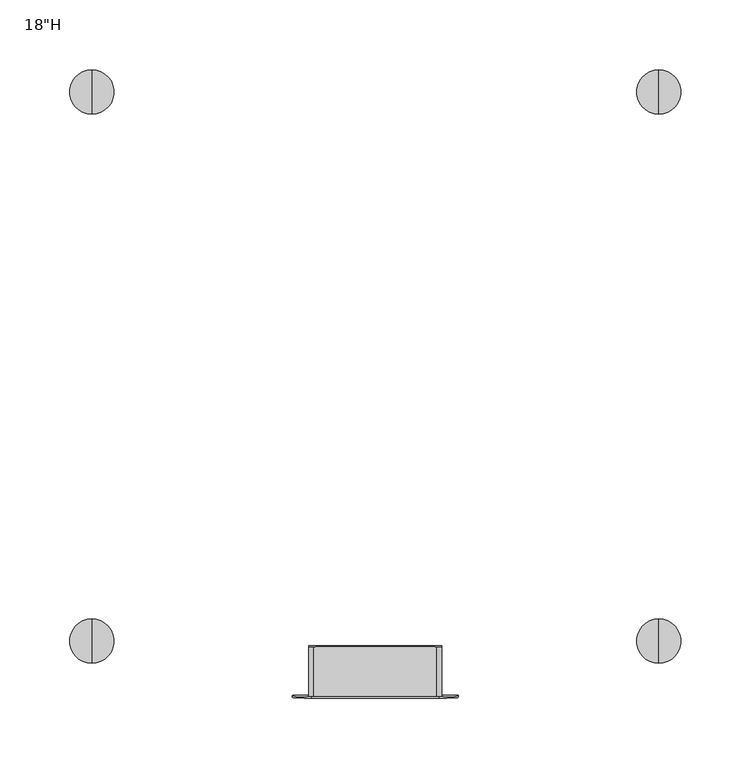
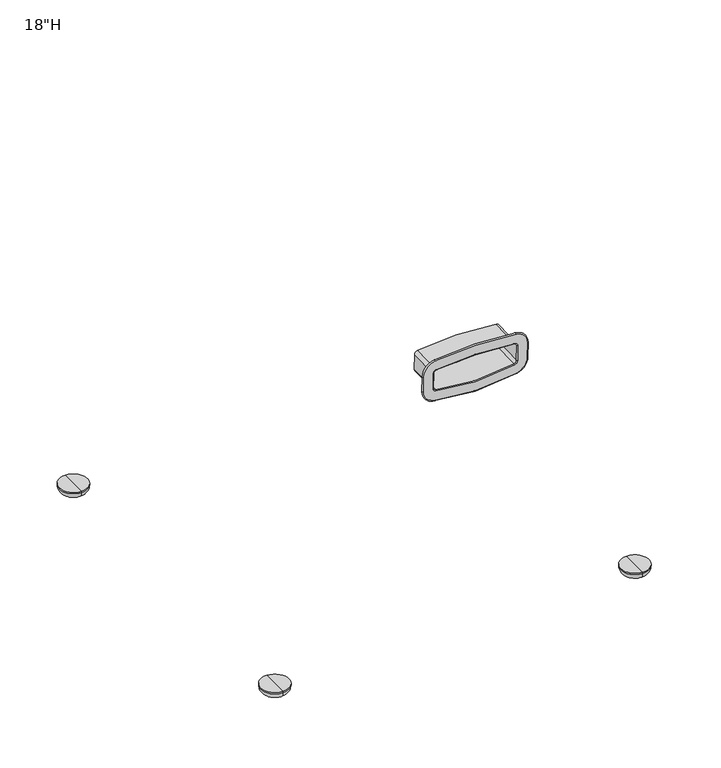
"""IFC4 building model written with IfcOpenShell, lengths in millimetres: furniture geometry."""

from ifc_helpers import new_model, si_unit, point, frame, origin, place, context, project, spatial, polyline, circle_curve, ellipse_curve, trimmed, source, transform, mapped, element, save
from ifc_brep_helpers import plane_surface, cylinder_surface, revolved_surface, advanced_brep


def furniture_e6a5d693(model_context):
    return source(origin(), model_context, "Body", "AdvancedBrep", [
        advanced_brep(
        [(44.3659332, -201.1031328, 328.7892288), (46.9155939, -201.1835637, 331.9230095), (46.9155939, -201.6446412, 349.8876982), (44.1201012, -201.7261303, 353.0627082), (-44.1201012, -201.7261303, 353.0627082), (-46.9155939, -201.6446412, 349.8876982), (-46.9155939, -201.1835637, 331.9230095), (-44.3659332, -201.1031328, 328.7892288), (47.7093439, -200.390075, 331.943375), (44.5276348, -200.2897057, 328.0327455), (-44.5276348, -200.2897057, 328.0327455), (-47.7093439, -200.390075, 331.943375), (-47.7093439, -200.8511526, 349.9080637), (-44.2208622, -200.9528424, 353.870143), (44.2208622, -200.9528424, 353.870143), (47.7093439, -200.8511526, 349.9080637), (47.7093439, -235.9314742, 331.0311777), (44.5276348, -235.8311049, 327.1205482), (58.8197535, -236.8878332, 331.006632), (46.7910317, -236.5083785, 316.2221648), (46.9492903, -235.5325056, 315.4864025), (59.5966028, -235.9314742, 331.0311777), (46.9155939, -236.0943445, 331.0269975), (44.3659332, -236.0139136, 327.8932168), (44.5276348, -236.7874639, 327.0960025), (47.7093439, -236.8878332, 331.006632), (47.7093439, -236.3925517, 348.9958664), (59.5966028, -236.3925517, 348.9958664), (58.8197535, -237.3489107, 348.9713207), (47.7093439, -237.3489107, 348.9713207), (46.9155939, -236.555422, 348.9916862), (44.2208622, -236.4942415, 352.9579458), (45.7298677, -236.7967693, 364.745155), (45.631252, -237.7333577, 363.9502984), (44.2208622, -237.4506005, 352.9334001), (44.1201012, -236.6369111, 352.1666962), (-44.2208622, -236.4942415, 352.9579458), (-45.7298677, -236.7967693, 364.745155), (-45.631252, -237.7333577, 363.9502984), (-44.2208622, -237.4506005, 352.9334001), (-44.1201012, -236.6369111, 352.1666962), (-47.7093439, -236.3925517, 348.9958664), (-59.5966028, -236.3925517, 348.9958664), (-58.8197535, -237.3489107, 348.9713207), (-47.7093439, -237.3489107, 348.9713207), (-46.9155939, -236.555422, 348.9916862), (-47.7093439, -235.9314742, 331.0311777), (-59.5966028, -235.9314742, 331.0311777), (-58.8197535, -236.8878332, 331.006632), (-47.7093439, -236.8878332, 331.006632), (-46.9155939, -236.0943445, 331.0269975), (-44.5276348, -235.8311049, 327.1205482), (-46.9492903, -235.5325056, 315.4864025), (-46.7910317, -236.5083785, 316.2221648), (-44.5276348, -236.7874639, 327.0960025), (-44.3659332, -236.0139136, 327.8932168)],
        [
            (0, 1, circle_curve(frame((43.7136345, -201.1835637, 331.9230095), z_axis=(0.0, -0.999670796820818, -0.025657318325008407), x_axis=(0.20371858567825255, 0.025119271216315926, -0.9787071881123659)), 3.2019594)),
            (1, 2),
            (2, 3, circle_curve(frame((43.7136345, -201.6446412, 349.8876982), z_axis=(0.0, -0.999670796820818, -0.025657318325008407), x_axis=(1.0, 0.0, 0.0)), 3.2019594)),
            (3, 4, circle_curve(frame((0.0, -192.8808634, 8.4298471), z_axis=(0.0, -0.999670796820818, -0.025657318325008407), x_axis=(0.1269430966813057, -0.0254497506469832, 0.9915834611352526)), 347.5580973)),
            (4, 5, circle_curve(frame((-43.7136345, -201.6446412, 349.8876982), z_axis=(0.0, -0.999670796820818, -0.025657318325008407), x_axis=(-0.1269430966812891, -0.025449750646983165, 0.9915834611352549)), 3.2019594)),
            (5, 6),
            (6, 7, circle_curve(frame((-43.7136345, -201.1835637, 331.9230095), z_axis=(0.0, -0.999670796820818, -0.025657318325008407), x_axis=(-1.0, 0.0, 0.0)), 3.2019594)),
            (7, 0, circle_curve(frame((0.0, -206.57362, 541.9325586), z_axis=(0.0, -0.999670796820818, -0.025657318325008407), x_axis=(-0.20371858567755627, 0.025119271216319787, -0.9787071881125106)), 217.7804887)),
            (8, 9, circle_curve(frame((43.7136345, -200.390075, 331.943375), z_axis=(0.0, 0.999670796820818, 0.025657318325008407), x_axis=(0.20371858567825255, 0.025119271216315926, -0.9787071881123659)), 3.9957094)),
            (9, 10, circle_curve(frame((0.0, -205.7801313, 541.9529241), z_axis=(0.0, 0.999670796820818, 0.025657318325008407), x_axis=(-0.20371858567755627, 0.025119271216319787, -0.9787071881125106)), 218.5742387)),
            (10, 11, circle_curve(frame((-43.7136345, -200.390075, 331.943375), z_axis=(0.0, 0.999670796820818, 0.025657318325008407), x_axis=(-1.0, 0.0, 0.0)), 3.9957094)),
            (11, 12),
            (12, 13, circle_curve(frame((-43.7136345, -200.8511526, 349.9080637), z_axis=(0.0, 0.999670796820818, 0.025657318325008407), x_axis=(-0.1269430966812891, -0.025449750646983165, 0.9915834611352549)), 3.9957094)),
            (13, 14, circle_curve(frame((0.0, -192.0873747, 8.4502126), z_axis=(0.0, 0.999670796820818, 0.025657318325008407), x_axis=(0.1269430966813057, -0.0254497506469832, 0.9915834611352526)), 348.3518473)),
            (14, 15, circle_curve(frame((43.7136345, -200.8511526, 349.9080637), z_axis=(0.0, 0.999670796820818, 0.025657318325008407), x_axis=(1.0, 0.0, 0.0)), 3.9957094)),
            (15, 8),
            (16, 17, circle_curve(frame((43.7136345, -235.9314742, 331.0311777), z_axis=(0.0, 0.999670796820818, 0.025657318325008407), x_axis=(0.20371858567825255, 0.025119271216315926, -0.9787071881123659)), 3.9957094)),
            (17, 9),
            (8, 16),
            (18, 19, circle_curve(frame((43.7136345, -236.8878332, 331.006632), z_axis=(0.0, 0.999670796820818, 0.025657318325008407), x_axis=(0.20371858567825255, 0.025119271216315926, -0.9787071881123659)), 15.106119)),
            (19, 20, circle_curve(frame((46.7910317, -235.7148898, 316.2425303), z_axis=(0.9790294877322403, -0.005226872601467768, 0.20365152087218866), x_axis=(-0.20371858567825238, -0.025119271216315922, 0.9787071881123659)), 0.79375)),
            (20, 21, circle_curve(frame((43.7136345, -235.9314742, 331.0311777), z_axis=(0.0, -0.999670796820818, -0.025657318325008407), x_axis=(0.20371858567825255, 0.025119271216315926, -0.9787071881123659)), 15.8829683)),
            (21, 18, circle_curve(frame((58.8197535, -236.0943445, 331.0269975), z_axis=(0.0, 0.02565731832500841, -0.9996707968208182), x_axis=(-1.0000000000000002, 0.0, 0.0)), 0.79375)),
            (22, 23, circle_curve(frame((43.7136345, -236.0943445, 331.0269975), z_axis=(0.0, 0.999670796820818, 0.025657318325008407), x_axis=(0.20371858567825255, 0.025119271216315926, -0.9787071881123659)), 3.2019594)),
            (23, 24, circle_curve(frame((44.5276348, -235.9939752, 327.116368), z_axis=(0.9790294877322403, -0.005226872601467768, 0.20365152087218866), x_axis=(-0.20371858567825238, -0.025119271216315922, 0.9787071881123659)), 0.79375)),
            (24, 25, circle_curve(frame((43.7136345, -236.8878332, 331.006632), z_axis=(0.0, -0.999670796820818, -0.025657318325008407), x_axis=(0.20371858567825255, 0.025119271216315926, -0.9787071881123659)), 3.9957094)),
            (25, 22, circle_curve(frame((47.7093439, -236.0943445, 331.0269975), z_axis=(0.0, 0.02565731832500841, -0.9996707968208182), x_axis=(-1.0000000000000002, 0.0, 0.0)), 0.79375)),
            (22, 1),
            (0, 23),
            (15, 26),
            (26, 16),
            (21, 27),
            (27, 28, circle_curve(frame((58.8197535, -236.555422, 348.9916862), z_axis=(0.0, 0.02565731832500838, -0.999670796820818), x_axis=(-1.0, 0.0, 0.0)), 0.79375)),
            (28, 18),
            (25, 29),
            (29, 30, circle_curve(frame((47.7093439, -236.555422, 348.9916862), z_axis=(0.0, 0.02565731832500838, -0.999670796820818), x_axis=(-1.0, 0.0, 0.0)), 0.79375)),
            (30, 22),
            (30, 2),
            (14, 31),
            (31, 26, circle_curve(frame((43.7136345, -236.3925517, 348.9958664), z_axis=(0.0, 0.999670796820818, 0.025657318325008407), x_axis=(1.0, 0.0, 0.0)), 3.9957094)),
            (27, 32, circle_curve(frame((43.7136345, -236.3925517, 348.9958664), z_axis=(0.0, -0.999670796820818, -0.025657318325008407), x_axis=(1.0, 0.0, 0.0)), 15.8829683)),
            (32, 33, circle_curve(frame((45.631252, -236.939869, 363.9706639), z_axis=(0.9919100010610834, 0.0032570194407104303, -0.12690130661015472), x_axis=(-0.12694309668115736, 0.025449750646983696, -0.9915834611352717)), 0.79375)),
            (33, 28, circle_curve(frame((43.7136345, -237.3489107, 348.9713207), z_axis=(0.0, 0.999670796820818, 0.025657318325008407), x_axis=(1.0, 0.0, 0.0)), 15.106119)),
            (29, 34, circle_curve(frame((43.7136345, -237.3489107, 348.9713207), z_axis=(0.0, -0.999670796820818, -0.025657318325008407), x_axis=(1.0, 0.0, 0.0)), 3.9957094)),
            (34, 35, circle_curve(frame((44.2208622, -236.6571119, 352.9537656), z_axis=(0.99191000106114, 0.0032570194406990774, -0.12690130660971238), x_axis=(-0.12694309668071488, 0.025449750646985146, -0.9915834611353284)), 0.79375)),
            (35, 30, circle_curve(frame((43.7136345, -236.555422, 348.9916862), z_axis=(0.0, 0.999670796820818, 0.025657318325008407), x_axis=(1.0, 0.0, 0.0)), 3.2019594)),
            (35, 3),
            (13, 36),
            (36, 31, circle_curve(frame((0.0, -227.6287739, 7.5380153), z_axis=(0.0, 0.999670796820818, 0.025657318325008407), x_axis=(0.1269430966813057, -0.0254497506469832, 0.9915834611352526)), 348.3518473)),
            (32, 37, circle_curve(frame((0.0, -227.6287739, 7.5380153), z_axis=(0.0, -0.999670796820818, -0.025657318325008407), x_axis=(0.1269430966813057, -0.0254497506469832, 0.9915834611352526)), 360.2391062)),
            (37, 38, circle_curve(frame((-45.631252, -236.939869, 363.9706639), z_axis=(0.9919100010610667, -0.003257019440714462, 0.12690130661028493), x_axis=(0.12694309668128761, 0.025449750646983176, -0.991583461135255)), 0.79375)),
            (38, 33, circle_curve(frame((0.0, -228.5851329, 7.5134696), z_axis=(0.0, 0.999670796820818, 0.025657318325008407), x_axis=(0.1269430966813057, -0.0254497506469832, 0.9915834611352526)), 359.4622569)),
            (34, 39, circle_curve(frame((0.0, -228.5851329, 7.5134696), z_axis=(0.0, -0.999670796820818, -0.025657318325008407), x_axis=(0.1269430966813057, -0.0254497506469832, 0.9915834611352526)), 348.3518473)),
            (39, 40, circle_curve(frame((-44.2208622, -236.6571119, 352.9537656), z_axis=(0.9919100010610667, -0.003257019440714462, 0.12690130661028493), x_axis=(0.12694309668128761, 0.025449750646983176, -0.991583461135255)), 0.79375)),
            (40, 35, circle_curve(frame((0.0, -227.7916442, 7.5338351), z_axis=(0.0, 0.999670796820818, 0.025657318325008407), x_axis=(0.1269430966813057, -0.0254497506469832, 0.9915834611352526)), 347.5580973)),
            (40, 4),
            (12, 41),
            (41, 36, circle_curve(frame((-43.7136345, -236.3925517, 348.9958664), z_axis=(0.0, 0.999670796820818, 0.025657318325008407), x_axis=(-0.1269430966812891, -0.025449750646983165, 0.9915834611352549)), 3.9957094)),
            (37, 42, circle_curve(frame((-43.7136345, -236.3925517, 348.9958664), z_axis=(0.0, -0.999670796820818, -0.025657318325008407), x_axis=(-0.1269430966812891, -0.025449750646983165, 0.9915834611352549)), 15.8829683)),
            (42, 43, circle_curve(frame((-58.8197535, -236.555422, 348.9916862), z_axis=(0.0, -0.025657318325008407, 0.999670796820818), x_axis=(1.0000000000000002, 0.0, 0.0)), 0.79375)),
            (43, 38, circle_curve(frame((-43.7136345, -237.3489107, 348.9713207), z_axis=(0.0, 0.999670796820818, 0.025657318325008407), x_axis=(-0.1269430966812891, -0.025449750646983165, 0.9915834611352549)), 15.106119)),
            (39, 44, circle_curve(frame((-43.7136345, -237.3489107, 348.9713207), z_axis=(0.0, -0.999670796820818, -0.025657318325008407), x_axis=(-0.1269430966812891, -0.025449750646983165, 0.9915834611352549)), 3.9957094)),
            (44, 45, circle_curve(frame((-47.7093439, -236.555422, 348.9916862), z_axis=(0.0, -0.025657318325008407, 0.999670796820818), x_axis=(1.0000000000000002, 0.0, 0.0)), 0.79375)),
            (45, 40, circle_curve(frame((-43.7136345, -236.555422, 348.9916862), z_axis=(0.0, 0.999670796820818, 0.025657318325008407), x_axis=(-0.1269430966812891, -0.025449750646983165, 0.9915834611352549)), 3.2019594)),
            (45, 5),
            (11, 46),
            (46, 41),
            (42, 47),
            (47, 48, circle_curve(frame((-58.8197535, -236.0943445, 331.0269975), z_axis=(0.0, -0.025657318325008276, 0.999670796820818), x_axis=(1.0, 0.0, 0.0)), 0.79375)),
            (48, 43),
            (44, 49),
            (49, 50, circle_curve(frame((-47.7093439, -236.0943445, 331.0269975), z_axis=(0.0, -0.025657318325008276, 0.999670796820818), x_axis=(1.0, 0.0, 0.0)), 0.79375)),
            (50, 45),
            (50, 6),
            (10, 51),
            (51, 46, circle_curve(frame((-43.7136345, -235.9314742, 331.0311777), z_axis=(0.0, 0.999670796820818, 0.025657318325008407), x_axis=(-1.0, 0.0, 0.0)), 3.9957094)),
            (47, 52, circle_curve(frame((-43.7136345, -235.9314742, 331.0311777), z_axis=(0.0, -0.999670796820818, -0.025657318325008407), x_axis=(-1.0, 0.0, 0.0)), 15.8829683)),
            (52, 53, circle_curve(frame((-46.7910317, -235.7148898, 316.2425303), z_axis=(-0.979029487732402, -0.005226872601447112, 0.2036515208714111), x_axis=(0.20371858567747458, -0.025119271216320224, 0.9787071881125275)), 0.79375)),
            (53, 48, circle_curve(frame((-43.7136345, -236.8878332, 331.006632), z_axis=(0.0, 0.999670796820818, 0.025657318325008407), x_axis=(-1.0, 0.0, 0.0)), 15.106119)),
            (49, 54, circle_curve(frame((-43.7136345, -236.8878332, 331.006632), z_axis=(0.0, -0.999670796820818, -0.025657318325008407), x_axis=(-1.0, 0.0, 0.0)), 3.9957094)),
            (54, 55, circle_curve(frame((-44.5276348, -235.9939752, 327.116368), z_axis=(-0.979029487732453, -0.005226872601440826, 0.20365152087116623), x_axis=(0.2037185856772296, -0.025119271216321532, 0.9787071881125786)), 0.79375)),
            (55, 50, circle_curve(frame((-43.7136345, -236.0943445, 331.0269975), z_axis=(0.0, 0.999670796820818, 0.025657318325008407), x_axis=(-1.0, 0.0, 0.0)), 3.2019594)),
            (55, 7),
            (17, 51, circle_curve(frame((0.0, -241.3215305, 541.0407268), z_axis=(0.0, 0.999670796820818, 0.025657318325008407), x_axis=(-0.20371858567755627, 0.025119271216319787, -0.9787071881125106)), 218.5742387)),
            (20, 52, circle_curve(frame((0.0, -241.3215305, 541.0407268), z_axis=(0.0, 0.999670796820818, 0.025657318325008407), x_axis=(-0.20371858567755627, 0.025119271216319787, -0.9787071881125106)), 230.4614976)),
            (19, 53, circle_curve(frame((0.0, -242.2778895, 541.0161811), z_axis=(0.0, 0.999670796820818, 0.025657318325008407), x_axis=(-0.20371858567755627, 0.025119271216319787, -0.9787071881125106)), 229.6846483)),
            (24, 54, circle_curve(frame((0.0, -242.2778895, 541.0161811), z_axis=(0.0, 0.999670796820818, 0.025657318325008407), x_axis=(-0.20371858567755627, 0.025119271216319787, -0.9787071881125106)), 218.5742387)),
            (23, 55, circle_curve(frame((0.0, -241.4844008, 541.0365466), z_axis=(0.0, 0.999670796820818, 0.025657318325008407), x_axis=(-0.20371858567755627, 0.025119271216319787, -0.9787071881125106)), 217.7804887)),
        ],
        [
            plane_surface(frame((-40.5788218, -201.627905, 349.2356143), z_axis=(0.0, -0.999670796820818, -0.02565731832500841), x_axis=(0.20371858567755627, -0.025119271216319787, 0.9787071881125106))),
            plane_surface(frame((-40.5788218, -200.8344163, 349.2559798), z_axis=(0.0, 0.999670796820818, 0.02565731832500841), x_axis=(-0.20371858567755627, 0.025119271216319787, -0.9787071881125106))),
            cylinder_surface(frame((43.7136345, -235.9314742, 331.0311777), z_axis=(0.0, -0.999670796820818, -0.025657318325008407), x_axis=(0.20371858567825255, 0.025119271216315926, -0.9787071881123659)), 3.9957094),
            revolved_surface(trimmed(ellipse_curve(frame((46.7910317, -235.7148898, 316.2425303), z_axis=(-0.9790294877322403, 0.005226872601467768, -0.20365152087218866), x_axis=(-0.20371858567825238, -0.025119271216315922, 0.9787071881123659)), 0.79375, 0.79375), [point((46.9492903, -235.5325056, 315.4864025))], [point((46.7910317, -236.5083785, 316.2221648))], True, "CARTESIAN"), (43.7136345, -235.9314742, 331.0311777), (0.0, -0.999670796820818, -0.025657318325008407)),
            revolved_surface(trimmed(ellipse_curve(frame((44.5276348, -235.9939752, 327.116368), z_axis=(-0.9790294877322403, 0.005226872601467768, -0.20365152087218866), x_axis=(-0.20371858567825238, -0.025119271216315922, 0.9787071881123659)), 0.79375, 0.79375), [point((44.5276348, -236.7874639, 327.0960025))], [point((44.3659332, -236.0139136, 327.8932168))], True, "CARTESIAN"), (43.7136345, -235.9314742, 331.0311777), (0.0, -0.999670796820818, -0.025657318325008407)),
            revolved_surface(polyline([(44.36593314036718, -236.01391361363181, 327.89321682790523), (44.36593314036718, -201.10313280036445, 328.7892288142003)]), (43.7136345, -235.9314742, 331.0311777), (0.0, -0.999670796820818, -0.025657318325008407)),
            plane_surface(frame((47.7093439, -200.390075, 331.943375), z_axis=(1.0, 0.0, 0.0), x_axis=(0.0, -0.025657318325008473, 0.999670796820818))),
            cylinder_surface(frame((58.8197535, -236.0943445, 331.0269975), z_axis=(0.0, 0.02565731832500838, -0.999670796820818), x_axis=(-1.0, 0.0, 0.0)), 0.79375),
            cylinder_surface(frame((47.7093439, -236.0943445, 331.0269975), z_axis=(0.0, 0.02565731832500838, -0.999670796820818), x_axis=(-1.0, 0.0, 0.0)), 0.79375),
            plane_surface(frame((46.9155939, -236.0943445, 331.0269975), z_axis=(-1.0, 0.0, 0.0), x_axis=(0.0, -0.025657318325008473, 0.999670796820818))),
            cylinder_surface(frame((43.7136345, -236.3925517, 348.9958664), z_axis=(0.0, -0.999670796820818, -0.025657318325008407), x_axis=(1.0, 0.0, 0.0)), 3.9957094),
            revolved_surface(trimmed(ellipse_curve(frame((58.8197535, -236.555422, 348.9916862), z_axis=(0.0, 0.025657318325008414, -0.999670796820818), x_axis=(-1.0, 0.0, 0.0)), 0.79375, 0.79375), [point((59.5966028, -236.3925517, 348.9958664))], [point((58.8197535, -237.3489107, 348.9713207))], True, "CARTESIAN"), (43.7136345, -236.3925517, 348.9958664), (0.0, -0.999670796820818, -0.025657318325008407)),
            revolved_surface(trimmed(ellipse_curve(frame((47.7093439, -236.555422, 348.9916862), z_axis=(0.0, 0.025657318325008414, -0.999670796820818), x_axis=(-1.0, 0.0, 0.0)), 0.79375, 0.79375), [point((47.7093439, -237.3489107, 348.9713207))], [point((46.9155939, -236.555422, 348.9916862))], True, "CARTESIAN"), (43.7136345, -236.3925517, 348.9958664), (0.0, -0.999670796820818, -0.025657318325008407)),
            revolved_surface(polyline([(46.9155939, -236.55542203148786, 348.9916862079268), (46.9155939, -201.6446411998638, 349.88769819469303)]), (43.7136345, -236.3925517, 348.9958664), (0.0, -0.999670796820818, -0.025657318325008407)),
            cylinder_surface(frame((0.0, -227.6287739, 7.5380153), z_axis=(0.0, -0.999670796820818, -0.025657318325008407), x_axis=(0.1269430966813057, -0.0254497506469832, 0.9915834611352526)), 348.3518473),
            revolved_surface(trimmed(ellipse_curve(frame((45.631252, -236.939869, 363.9706639), z_axis=(0.9919100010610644, 0.0032570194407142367, -0.12690130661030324), x_axis=(-0.12694309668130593, 0.025449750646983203, -0.9915834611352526)), 0.79375, 0.79375), [point((45.7298677, -236.7967693, 364.745155))], [point((45.631252, -237.7333577, 363.9502984))], True, "CARTESIAN"), (0.0, -227.6287739, 7.5380153), (0.0, -0.999670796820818, -0.025657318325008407)),
            revolved_surface(trimmed(ellipse_curve(frame((44.2208622, -236.6571119, 352.9537656), z_axis=(0.9919100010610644, 0.0032570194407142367, -0.12690130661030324), x_axis=(-0.12694309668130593, 0.025449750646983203, -0.9915834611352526)), 0.79375, 0.79375), [point((44.2208622, -237.4506005, 352.9334001))], [point((44.1201012, -236.6369111, 352.1666962))], True, "CARTESIAN"), (0.0, -227.6287739, 7.5380153), (0.0, -0.999670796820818, -0.025657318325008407)),
            revolved_surface(polyline([(44.12010114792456, -236.63691111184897, 352.16669617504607), (44.12010114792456, -201.7261302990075, 353.0627081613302)]), (0.0, -227.6287739, 7.5380153), (0.0, -0.999670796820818, -0.025657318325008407)),
            cylinder_surface(frame((-43.7136345, -236.3925517, 348.9958664), z_axis=(0.0, -0.999670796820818, -0.025657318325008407), x_axis=(-0.1269430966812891, -0.025449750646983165, 0.9915834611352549)), 3.9957094),
            revolved_surface(trimmed(ellipse_curve(frame((-45.631252, -236.939869, 363.9706639), z_axis=(0.9919100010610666, -0.0032570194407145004, 0.12690130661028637), x_axis=(0.12694309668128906, 0.025449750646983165, -0.9915834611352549)), 0.79375, 0.79375), [point((-45.7298677, -236.7967693, 364.745155))], [point((-45.631252, -237.7333577, 363.9502984))], True, "CARTESIAN"), (-43.7136345, -236.3925517, 348.9958664), (0.0, -0.999670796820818, -0.025657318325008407)),
            revolved_surface(trimmed(ellipse_curve(frame((-44.2208622, -236.6571119, 352.9537656), z_axis=(0.9919100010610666, -0.0032570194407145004, 0.12690130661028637), x_axis=(0.12694309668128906, 0.025449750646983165, -0.9915834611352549)), 0.79375, 0.79375), [point((-44.2208622, -237.4506005, 352.9334001))], [point((-44.1201012, -236.6369111, 352.1666962))], True, "CARTESIAN"), (-43.7136345, -236.3925517, 348.9958664), (0.0, -0.999670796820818, -0.025657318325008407)),
            revolved_surface(polyline([(-44.12010114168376, -236.63691109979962, 352.1666961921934), (-44.12010114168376, -201.72613026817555, 353.0627081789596)]), (-43.7136345, -236.3925517, 348.9958664), (0.0, -0.999670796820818, -0.025657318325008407)),
            plane_surface(frame((-47.7093439, -200.8511526, 349.9080637), z_axis=(-1.0, 0.0, 0.0), x_axis=(0.0, 0.025657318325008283, -0.999670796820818))),
            cylinder_surface(frame((-58.8197535, -236.555422, 348.9916862), z_axis=(0.0, -0.025657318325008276, 0.999670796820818), x_axis=(1.0, 0.0, 0.0)), 0.79375),
            cylinder_surface(frame((-47.7093439, -236.555422, 348.9916862), z_axis=(0.0, -0.025657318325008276, 0.999670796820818), x_axis=(1.0, 0.0, 0.0)), 0.79375),
            plane_surface(frame((-46.9155939, -236.555422, 348.9916862), z_axis=(1.0, 0.0, 0.0), x_axis=(0.0, 0.025657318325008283, -0.999670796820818))),
            cylinder_surface(frame((-43.7136345, -235.9314742, 331.0311777), z_axis=(0.0, -0.999670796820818, -0.025657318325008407), x_axis=(-1.0, 0.0, 0.0)), 3.9957094),
            revolved_surface(trimmed(ellipse_curve(frame((-58.8197535, -236.0943445, 331.0269975), z_axis=(0.0, -0.0256573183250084, 0.999670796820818), x_axis=(1.0, 0.0, 0.0)), 0.79375, 0.79375), [point((-59.5966028, -235.9314742, 331.0311777))], [point((-58.8197535, -236.8878332, 331.006632))], True, "CARTESIAN"), (-43.7136345, -235.9314742, 331.0311777), (0.0, -0.999670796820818, -0.025657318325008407)),
            revolved_surface(trimmed(ellipse_curve(frame((-47.7093439, -236.0943445, 331.0269975), z_axis=(0.0, -0.0256573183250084, 0.999670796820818), x_axis=(1.0, 0.0, 0.0)), 0.79375, 0.79375), [point((-47.7093439, -236.8878332, 331.006632))], [point((-46.9155939, -236.0943445, 331.0269975))], True, "CARTESIAN"), (-43.7136345, -235.9314742, 331.0311777), (0.0, -0.999670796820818, -0.025657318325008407)),
            revolved_surface(polyline([(-46.9155939, -236.09434450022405, 331.0269975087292), (-46.9155939, -201.1835636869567, 331.9230094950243)]), (-43.7136345, -235.9314742, 331.0311777), (0.0, -0.999670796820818, -0.025657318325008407)),
            cylinder_surface(frame((0.0, -241.3215305, 541.0407268), z_axis=(0.0, -0.999670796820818, -0.025657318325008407), x_axis=(-0.20371858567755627, 0.025119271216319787, -0.9787071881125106)), 218.5742387),
            plane_surface(frame((0.0, -241.3215305, 541.0407268), z_axis=(0.0, 0.999670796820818, 0.02565731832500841), x_axis=(-0.20371858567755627, 0.025119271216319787, -0.9787071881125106))),
            revolved_surface(trimmed(ellipse_curve(frame((-46.7910317, -235.7148898, 316.2425303), z_axis=(-0.9790294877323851, -0.005226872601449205, 0.20365152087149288), x_axis=(0.20371858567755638, -0.025119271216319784, 0.9787071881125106)), 0.79375, 0.79375), [point((-46.9492903, -235.5325056, 315.4864025))], [point((-46.7910317, -236.5083785, 316.2221648))], True, "CARTESIAN"), (0.0, -241.3215305, 541.0407268), (0.0, -0.999670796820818, -0.025657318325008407)),
            plane_surface(frame((0.0, -242.2778895, 541.0161811), z_axis=(0.0, -0.999670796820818, -0.02565731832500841), x_axis=(-0.20371858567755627, 0.025119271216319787, -0.9787071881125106))),
            revolved_surface(trimmed(ellipse_curve(frame((-44.5276348, -235.9939752, 327.116368), z_axis=(-0.9790294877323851, -0.005226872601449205, 0.20365152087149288), x_axis=(0.20371858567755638, -0.025119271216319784, 0.9787071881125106)), 0.79375, 0.79375), [point((-44.5276348, -236.7874639, 327.0960025))], [point((-44.3659332, -236.0139136, 327.8932168))], True, "CARTESIAN"), (0.0, -241.3215305, 541.0407268), (0.0, -0.999670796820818, -0.025657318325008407)),
            revolved_surface(polyline([(-44.36593314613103, -236.0139136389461, 327.89321688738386), (-44.36593314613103, -201.10313280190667, 328.78922887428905)]), (0.0, -241.3215305, 541.0407268), (0.0, -0.999670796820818, -0.025657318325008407)),
        ],
        [
            (0, [[1, 2, 3, 4, 5, 6, 7, 8]]),
            (1, [[9, 10, 11, 12, 13, 14, 15, 16]]),
            (2, [[17, 18, -9, 19]]),
            (3, [[20, 21, 22, 23]]),
            (4, [[24, 25, 26, 27]]),
            (5, [[-24, 28, -1, 29]]),
            (6, [[-19, -16, 30, 31]]),
            (7, [[-23, 32, 33, 34]]),
            (8, [[-27, 35, 36, 37]]),
            (9, [[-37, 38, -2, -28]]),
            (10, [[-30, -15, 39, 40]]),
            (11, [[-33, 41, 42, 43]]),
            (12, [[-36, 44, 45, 46]]),
            (13, [[-46, 47, -3, -38]]),
            (14, [[-39, -14, 48, 49]]),
            (15, [[-42, 50, 51, 52]]),
            (16, [[-45, 53, 54, 55]]),
            (17, [[-55, 56, -4, -47]]),
            (18, [[-48, -13, 57, 58]]),
            (19, [[-51, 59, 60, 61]]),
            (20, [[-54, 62, 63, 64]]),
            (21, [[-64, 65, -5, -56]]),
            (22, [[-57, -12, 66, 67]]),
            (23, [[-60, 68, 69, 70]]),
            (24, [[-63, 71, 72, 73]]),
            (25, [[-73, 74, -6, -65]]),
            (26, [[-66, -11, 75, 76]]),
            (27, [[-69, 77, 78, 79]]),
            (28, [[-72, 80, 81, 82]]),
            (29, [[-82, 83, -7, -74]]),
            (30, [[-18, 84, -75, -10]]),
            (31, [[-22, 85, -77, -68, -59, -50, -41, -32], [-17, -31, -40, -49, -58, -67, -76, -84]]),
            (32, [[-21, 86, -78, -85]]),
            (33, [[-20, -34, -43, -52, -61, -70, -79, -86], [-26, 87, -80, -71, -62, -53, -44, -35]]),
            (34, [[-25, 88, -81, -87]]),
            (35, [[-88, -29, -8, -83]]),
        ],
    ),
        advanced_brep(
        [(203.198745, -188.876713, 0.0), (203.198745, -204.827028, 0.0), (203.198745, -196.8518705, 0.0), (203.198745, -180.9768705, 7.8998425), (203.198745, -212.7268705, 7.8998425), (203.198745, -180.9768705, 9.525), (203.198745, -212.7268705, 9.525), (203.198745, -196.8518705, 9.525)],
        [
            (0, 1, circle_curve(frame((203.198745, -196.8518705, 0.0), z_axis=(0.0, 0.0, -1.0), x_axis=(0.0, -1.0, 0.0)), 7.9751575)),
            (1, 2),
            (2, 0),
            (1, 0, circle_curve(frame((203.198745, -196.8518705, 0.0), z_axis=(0.0, 0.0, -1.0), x_axis=(0.0, -1.0, 0.0)), 7.9751575)),
            (3, 4, circle_curve(frame((203.198745, -196.8518705, 7.8998425), z_axis=(0.0, 0.0, -1.0), x_axis=(0.0, -1.0, 0.0)), 15.875)),
            (4, 1, circle_curve(frame((203.198745, -204.827028, 7.8998425), z_axis=(1.0, 0.0, 0.0), x_axis=(0.0, -1.0, 0.0)), 7.8998425)),
            (0, 3, circle_curve(frame((203.198745, -188.876713, 7.8998425), z_axis=(1.0, 0.0, 0.0), x_axis=(0.0, 1.0, 0.0)), 7.8998425)),
            (4, 3, circle_curve(frame((203.198745, -196.8518705, 7.8998425), z_axis=(0.0, 0.0, -1.0), x_axis=(0.0, -1.0, 0.0)), 15.875)),
            (5, 6, circle_curve(frame((203.198745, -196.8518705, 9.525), z_axis=(0.0, 0.0, -1.0), x_axis=(0.0, -1.0, 0.0)), 15.875)),
            (6, 4),
            (3, 5),
            (6, 5, circle_curve(frame((203.198745, -196.8518705, 9.525), z_axis=(0.0, 0.0, -1.0), x_axis=(0.0, -1.0, 0.0)), 15.875)),
            (7, 6),
            (5, 7),
        ],
        [
            plane_surface(frame((203.198745, -196.8518705, 0.0), z_axis=(0.0, 0.0, -1.0), x_axis=(0.0, -1.0, 0.0))),
            revolved_surface(trimmed(ellipse_curve(frame((203.198745, -204.827028, 7.8998425), z_axis=(-1.0, 0.0, 0.0), x_axis=(0.0, -1.0, 0.0)), 7.8998425, 7.8998425), [point((203.198745, -204.827028, 0.0))], [point((203.198745, -212.7268705, 7.8998425))], True, "CARTESIAN"), (203.198745, -196.8518705, 12.3279495), (0.0, 0.0, 1.0)),
            cylinder_surface(frame((203.198745, -196.8518705, 12.3279495), z_axis=(0.0, 0.0, 1.0), x_axis=(0.0, -1.0, 0.0)), 15.875),
            plane_surface(frame((203.198745, -196.8518705, 9.525), z_axis=(0.0, 0.0, 1.0), x_axis=(0.0, -1.0, 0.0))),
        ],
        [
            (0, [[1, 2, 3]]),
            (0, [[4, -3, -2]]),
            (1, [[5, 6, -1, 7]]),
            (1, [[8, -7, -4, -6]]),
            (2, [[9, 10, -5, 11]]),
            (2, [[12, -11, -8, -10]]),
            (3, [[13, -9, 14]]),
            (3, [[-14, -12, -13]]),
        ],
    ),
        advanced_brep(
        [(203.198745, 196.8518705, 0.0), (203.198745, 204.827028, 0.0), (203.198745, 188.876713, 0.0), (203.198745, 212.7268705, 7.8998425), (203.198745, 180.9768705, 7.8998425), (203.198745, 212.7268705, 9.525), (203.198745, 180.9768705, 9.525), (203.198745, 196.8518705, 9.525)],
        [
            (0, 1),
            (1, 2, circle_curve(frame((203.198745, 196.8518705, 0.0), z_axis=(0.0, 0.0, -1.0), x_axis=(0.0, 1.0, 0.0)), 7.9751575)),
            (2, 0),
            (2, 1, circle_curve(frame((203.198745, 196.8518705, 0.0), z_axis=(0.0, 0.0, -1.0), x_axis=(0.0, 1.0, 0.0)), 7.9751575)),
            (1, 3, circle_curve(frame((203.198745, 204.827028, 7.8998425), z_axis=(1.0, 0.0, 0.0), x_axis=(0.0, 1.0, 0.0)), 7.8998425)),
            (3, 4, circle_curve(frame((203.198745, 196.8518705, 7.8998425), z_axis=(0.0, 0.0, -1.0), x_axis=(0.0, 1.0, 0.0)), 15.875)),
            (4, 2, circle_curve(frame((203.198745, 188.876713, 7.8998425), z_axis=(1.0, 0.0, 0.0), x_axis=(0.0, -1.0, 0.0)), 7.8998425)),
            (4, 3, circle_curve(frame((203.198745, 196.8518705, 7.8998425), z_axis=(0.0, 0.0, -1.0), x_axis=(0.0, 1.0, 0.0)), 15.875)),
            (3, 5),
            (5, 6, circle_curve(frame((203.198745, 196.8518705, 9.525), z_axis=(0.0, 0.0, -1.0), x_axis=(0.0, 1.0, 0.0)), 15.875)),
            (6, 4),
            (6, 5, circle_curve(frame((203.198745, 196.8518705, 9.525), z_axis=(0.0, 0.0, -1.0), x_axis=(0.0, 1.0, 0.0)), 15.875)),
            (5, 7),
            (7, 6),
        ],
        [
            plane_surface(frame((203.198745, 196.8518705, 0.0), z_axis=(0.0, 0.0, -1.0), x_axis=(0.0, 1.0, 0.0))),
            revolved_surface(trimmed(ellipse_curve(frame((203.198745, 204.827028, 7.8998425), z_axis=(-1.0, 0.0, 0.0), x_axis=(0.0, 1.0, 0.0)), 7.8998425, 7.8998425), [point((203.198745, 212.7268705, 7.8998425))], [point((203.198745, 204.827028, 0.0))], True, "CARTESIAN"), (203.198745, 196.8518705, 12.3279495), (0.0, 0.0, -1.0)),
            cylinder_surface(frame((203.198745, 196.8518705, 12.3279495), z_axis=(0.0, 0.0, -1.0), x_axis=(0.0, 1.0, 0.0)), 15.875),
            plane_surface(frame((203.198745, 196.8518705, 9.525), z_axis=(0.0, 0.0, 1.0), x_axis=(0.0, 1.0, 0.0))),
        ],
        [
            (0, [[1, 2, 3]]),
            (0, [[-3, 4, -1]]),
            (1, [[-2, 5, 6, 7]]),
            (1, [[-4, -7, 8, -5]]),
            (2, [[-6, 9, 10, 11]]),
            (2, [[-8, -11, 12, -9]]),
            (3, [[-10, 13, 14]]),
            (3, [[-12, -14, -13]]),
        ],
    ),
        advanced_brep(
        [(-203.198745, -196.8518705, 0.0), (-203.198745, -204.827028, 0.0), (-203.198745, -188.876713, 0.0), (-203.198745, -212.7268705, 7.8998425), (-203.198745, -180.9768705, 7.8998425), (-203.198745, -212.7268705, 9.525), (-203.198745, -180.9768705, 9.525), (-203.198745, -196.8518705, 9.525)],
        [
            (0, 1),
            (1, 2, circle_curve(frame((-203.198745, -196.8518705, 0.0), z_axis=(0.0, 0.0, -1.0), x_axis=(0.0, -1.0, 0.0)), 7.9751575)),
            (2, 0),
            (2, 1, circle_curve(frame((-203.198745, -196.8518705, 0.0), z_axis=(0.0, 0.0, -1.0), x_axis=(0.0, -1.0, 0.0)), 7.9751575)),
            (1, 3, circle_curve(frame((-203.198745, -204.827028, 7.8998425), z_axis=(-1.0, 0.0, 0.0), x_axis=(0.0, -1.0, 0.0)), 7.8998425)),
            (3, 4, circle_curve(frame((-203.198745, -196.8518705, 7.8998425), z_axis=(0.0, 0.0, -1.0), x_axis=(0.0, -1.0, 0.0)), 15.875)),
            (4, 2, circle_curve(frame((-203.198745, -188.876713, 7.8998425), z_axis=(-1.0, 0.0, 0.0), x_axis=(0.0, 1.0, 0.0)), 7.8998425)),
            (4, 3, circle_curve(frame((-203.198745, -196.8518705, 7.8998425), z_axis=(0.0, 0.0, -1.0), x_axis=(0.0, -1.0, 0.0)), 15.875)),
            (3, 5),
            (5, 6, circle_curve(frame((-203.198745, -196.8518705, 9.525), z_axis=(0.0, 0.0, -1.0), x_axis=(0.0, -1.0, 0.0)), 15.875)),
            (6, 4),
            (6, 5, circle_curve(frame((-203.198745, -196.8518705, 9.525), z_axis=(0.0, 0.0, -1.0), x_axis=(0.0, -1.0, 0.0)), 15.875)),
            (5, 7),
            (7, 6),
        ],
        [
            plane_surface(frame((-203.198745, -196.8518705, 0.0), z_axis=(0.0, 0.0, -1.0), x_axis=(0.0, -1.0, 0.0))),
            revolved_surface(trimmed(ellipse_curve(frame((-203.198745, -204.827028, 7.8998425), z_axis=(1.0, 0.0, 0.0), x_axis=(0.0, -1.0, 0.0)), 7.8998425, 7.8998425), [point((-203.198745, -212.7268705, 7.8998425))], [point((-203.198745, -204.827028, 0.0))], True, "CARTESIAN"), (-203.198745, -196.8518705, 12.3279495), (0.0, 0.0, -1.0)),
            cylinder_surface(frame((-203.198745, -196.8518705, 12.3279495), z_axis=(0.0, 0.0, -1.0), x_axis=(0.0, -1.0, 0.0)), 15.875),
            plane_surface(frame((-203.198745, -196.8518705, 9.525), z_axis=(0.0, 0.0, 1.0), x_axis=(0.0, -1.0, 0.0))),
        ],
        [
            (0, [[1, 2, 3]]),
            (0, [[-3, 4, -1]]),
            (1, [[-2, 5, 6, 7]]),
            (1, [[-4, -7, 8, -5]]),
            (2, [[-6, 9, 10, 11]]),
            (2, [[-8, -11, 12, -9]]),
            (3, [[-10, 13, 14]]),
            (3, [[-12, -14, -13]]),
        ],
    ),
        advanced_brep(
        [(-203.198745, 188.876713, 0.0), (-203.198745, 204.827028, 0.0), (-203.198745, 196.8518705, 0.0), (-203.198745, 180.9768705, 7.8998425), (-203.198745, 212.7268705, 7.8998425), (-203.198745, 180.9768705, 9.525), (-203.198745, 212.7268705, 9.525), (-203.198745, 196.8518705, 9.525)],
        [
            (0, 1, circle_curve(frame((-203.198745, 196.8518705, 0.0), z_axis=(0.0, 0.0, -1.0), x_axis=(0.0, 1.0, 0.0)), 7.9751575)),
            (1, 2),
            (2, 0),
            (1, 0, circle_curve(frame((-203.198745, 196.8518705, 0.0), z_axis=(0.0, 0.0, -1.0), x_axis=(0.0, 1.0, 0.0)), 7.9751575)),
            (3, 4, circle_curve(frame((-203.198745, 196.8518705, 7.8998425), z_axis=(0.0, 0.0, -1.0), x_axis=(0.0, 1.0, 0.0)), 15.875)),
            (4, 1, circle_curve(frame((-203.198745, 204.827028, 7.8998425), z_axis=(-1.0, 0.0, 0.0), x_axis=(0.0, 1.0, 0.0)), 7.8998425)),
            (0, 3, circle_curve(frame((-203.198745, 188.876713, 7.8998425), z_axis=(-1.0, 0.0, 0.0), x_axis=(0.0, -1.0, 0.0)), 7.8998425)),
            (4, 3, circle_curve(frame((-203.198745, 196.8518705, 7.8998425), z_axis=(0.0, 0.0, -1.0), x_axis=(0.0, 1.0, 0.0)), 15.875)),
            (5, 6, circle_curve(frame((-203.198745, 196.8518705, 9.525), z_axis=(0.0, 0.0, -1.0), x_axis=(0.0, 1.0, 0.0)), 15.875)),
            (6, 4),
            (3, 5),
            (6, 5, circle_curve(frame((-203.198745, 196.8518705, 9.525), z_axis=(0.0, 0.0, -1.0), x_axis=(0.0, 1.0, 0.0)), 15.875)),
            (7, 6),
            (5, 7),
        ],
        [
            plane_surface(frame((-203.198745, 196.8518705, 0.0), z_axis=(0.0, 0.0, -1.0), x_axis=(0.0, 1.0, 0.0))),
            revolved_surface(trimmed(ellipse_curve(frame((-203.198745, 204.827028, 7.8998425), z_axis=(1.0, 0.0, 0.0), x_axis=(0.0, 1.0, 0.0)), 7.8998425, 7.8998425), [point((-203.198745, 204.827028, 0.0))], [point((-203.198745, 212.7268705, 7.8998425))], True, "CARTESIAN"), (-203.198745, 196.8518705, 12.3279495), (0.0, 0.0, 1.0)),
            cylinder_surface(frame((-203.198745, 196.8518705, 12.3279495), z_axis=(0.0, 0.0, 1.0), x_axis=(0.0, 1.0, 0.0)), 15.875),
            plane_surface(frame((-203.198745, 196.8518705, 9.525), z_axis=(0.0, 0.0, 1.0), x_axis=(0.0, 1.0, 0.0))),
        ],
        [
            (0, [[1, 2, 3]]),
            (0, [[4, -3, -2]]),
            (1, [[5, 6, -1, 7]]),
            (1, [[8, -7, -4, -6]]),
            (2, [[9, 10, -5, 11]]),
            (2, [[12, -11, -8, -10]]),
            (3, [[13, -9, 14]]),
            (3, [[-14, -12, -13]]),
        ],
    ),
    ])


if __name__ == "__main__":
    model = new_model("IFC4")
    model_context = context("Model", 3, world=origin())
    ifc_project = project(units=[si_unit("LENGTHUNIT", "METRE", prefix="MILLI")], contexts=[model_context])
    site = spatial("IfcSite", under=ifc_project)
    building = spatial("IfcBuilding", under=site)
    placement = place(None, origin())
    furniture_shape = furniture_e6a5d693(model_context)
    element("IfcFurniture", 1, ObjectType="Integra - Coastal Collection - Tide Footstool : 18\"H", at=placement, inside=building, context=model_context, shape_type="MappedRepresentation", body=[
        mapped(furniture_shape, transform((0.0, 0.0, 0.0), x_axis=(1.0, 0.0, 0.0), y_axis=(0.0, 1.0, 0.0), z_axis=(0.0, 0.0, 1.0))),
    ])
    save(model, "model.ifc")
